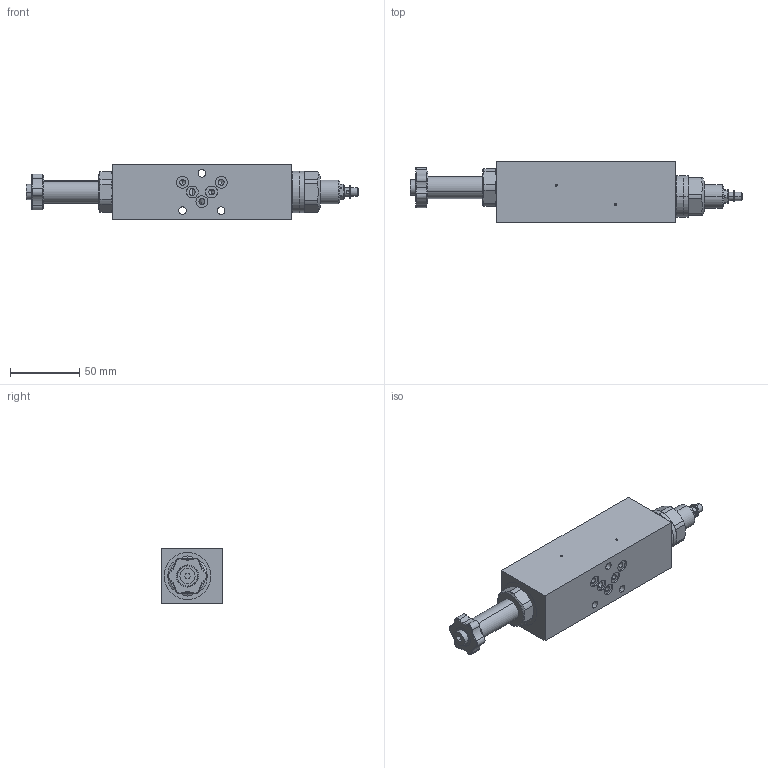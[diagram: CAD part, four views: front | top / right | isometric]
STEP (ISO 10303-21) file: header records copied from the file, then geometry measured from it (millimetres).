
FILE_DESCRIPTION (( 'STEP AP214' ), '1' );
FILE_NAME ('VQSSA04-AV.STEP', '2018-08-28T13:39:09', ( '' ), ( '' ), 'SwSTEP 2.0', 'SolidWorks 2016', '' );
FILE_SCHEMA (( 'AUTOMOTIVE_DESIGN' ));
Length unit declared in the file: millimetre
Products named in the file (2): VQSSA04-AV
Bounding box: 240.5 x 44.5 x 40 mm (x, y, z)
Volume: 260887.5 mm3; surface area: 40143.2 mm2
Topology: 4 solids, 5 shells, 314 faces, 765 edges, 464 vertices
Faces by surface type: cylinder 131, plane 94, cone 64, torus 25
Entity records: 12865 total; most frequent: CARTESIAN_POINT 1915, DIRECTION 1669, ORIENTED_EDGE 1474, EDGE_CURVE 737, AXIS2_PLACEMENT_3D 682, VERTEX_POINT 464, CIRCLE 366, EDGE_LOOP 359
